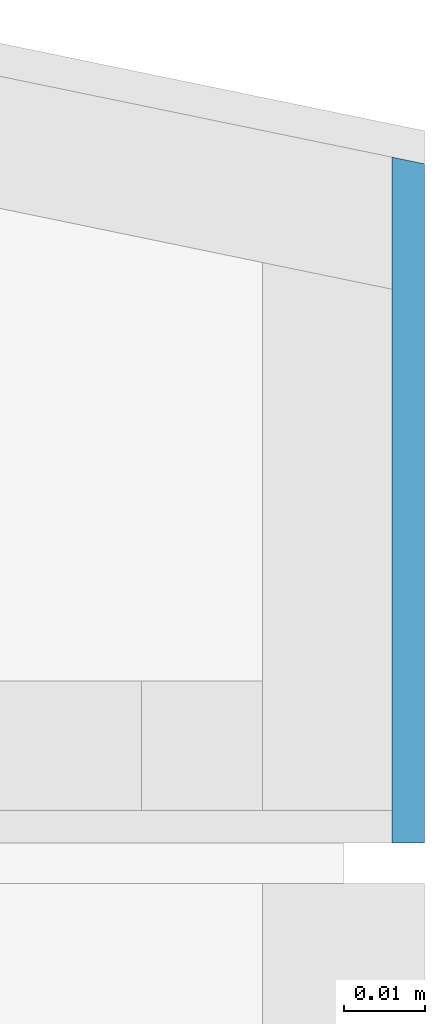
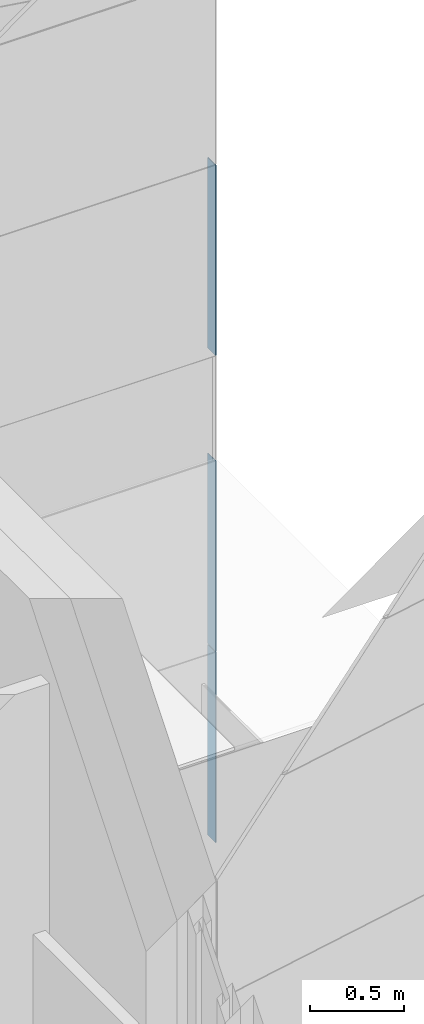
# One storey, part 17 of 125: 3 building element parts, 1 element without a shape of its own.
"""IFC2X3 building model written with IfcOpenShell, lengths in millimetres."""

from ifc_helpers import new_model, entity, si_unit, converted_unit, direction, frame, origin, place, context, subcontext, project, spatial, polyline, outline, extrude, material, type_object, element, aggregate, save


model = new_model("IFC2X3")

# Units and contexts
model_context = context("Model", 3, precision=0.01, world=origin(), true_north=direction((6.123233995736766e-17, 1.0)))
plan_context = context("Plan", 3, precision=0.01, world=origin(), true_north=direction((6.123233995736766e-17, 1.0)))
body_context = subcontext(model_context, "Body", "Model", "MODEL_VIEW")
ifc_project = project(units=[si_unit("LENGTHUNIT", "METRE", prefix="MILLI"), converted_unit("PLANEANGLEUNIT", "DEGREE", entity("IfcPlaneAngleMeasure", 0.017453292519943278), si_unit("PLANEANGLEUNIT", "RADIAN"), dimensions=[0, 0, 0, 0, 0, 0, 0]), si_unit("AREAUNIT", "SQUARE_METRE")], contexts=[model_context, plan_context])

# Site, building, storey
site_placement = place(None, origin())
site = spatial("IfcSite", under=ifc_project, at=site_placement, Name="Default", CompositionType="ELEMENT")
building_placement = place(site_placement, origin())
building = spatial("IfcBuilding", under=site, at=building_placement, CompositionType="ELEMENT")
storey_placement = place(building_placement, frame((0.0, 0.0, 3125.0)))
storey = spatial("IfcBuildingStorey", under=building, at=storey_placement, Name="2K", CompositionType="ELEMENT", Elevation=3125.0)

# Wall, building element parts
wall_type = type_object("IfcWallType", Name="Basic Wall:VS-komposiit", PredefinedType="STANDARD")
wall_placement = place(storey_placement, frame((18942.0, 5428.129167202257, -1010.0), z_axis=(0.0, 0.0, 1.0), x_axis=(0.0, -1.0, 0.0)))
wall = element("IfcWall", 1, at=wall_placement, inside=storey, type_object=wall_type, Name="Basic Wall:VS-komposiit", ObjectType="Basic Wall:VS-komposiit")
ifc_material = material(Name="_K. Välisviimistlus. Alumiinium-komposiitplaat")
building_element_part_1_placement = place(wall_placement, origin())
building_element_part_1 = element("IfcBuildingElementPart", 2, at=building_element_part_1_placement, material=ifc_material, Name="Part", context=body_context, shape_type="SweptSolid", body=[
    extrude(outline(polyline([(-42.61260185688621, -2.0), (42.20013519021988, -2.0), (42.20013519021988, 2.0), (-41.78766852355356, 2.0), (-42.61260185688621, -2.0)])), frame((29.575620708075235, 8.0, 927.4999999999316)), (0.0, 0.0, 1.0), 1240.0000000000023),
])
building_element_part_2_placement = place(wall_placement, origin())
building_element_part_2 = element("IfcBuildingElementPart", 3, at=building_element_part_2_placement, material=ifc_material, Name="Part", context=body_context, shape_type="SweptSolid", body=[
    extrude(outline(polyline([(-42.61260185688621, -2.0), (42.20013519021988, -2.0), (42.20013519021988, 2.0), (-41.78766852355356, 2.0), (-42.61260185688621, -2.0)])), frame((29.575620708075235, 8.0, 2172.4999999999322)), (0.0, 0.0, 1.0), 1240.0000000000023),
])
building_element_part_3_placement = place(wall_placement, origin())
building_element_part_3 = element("IfcBuildingElementPart", 4, at=building_element_part_3_placement, material=ifc_material, Name="Part", context=body_context, shape_type="SweptSolid", body=[
    extrude(outline(polyline([(-42.61260185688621, -2.0), (42.20013519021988, -2.0), (42.20013519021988, 2.0), (-41.78766852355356, 2.0), (-42.61260185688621, -2.0)])), frame((29.575620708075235, 8.0, 4097.499999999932)), (0.0, 0.0, 1.0), 1240.0000000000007),
])
aggregate(wall, [building_element_part_1, building_element_part_2, building_element_part_3])

save(model, "model.ifc")
